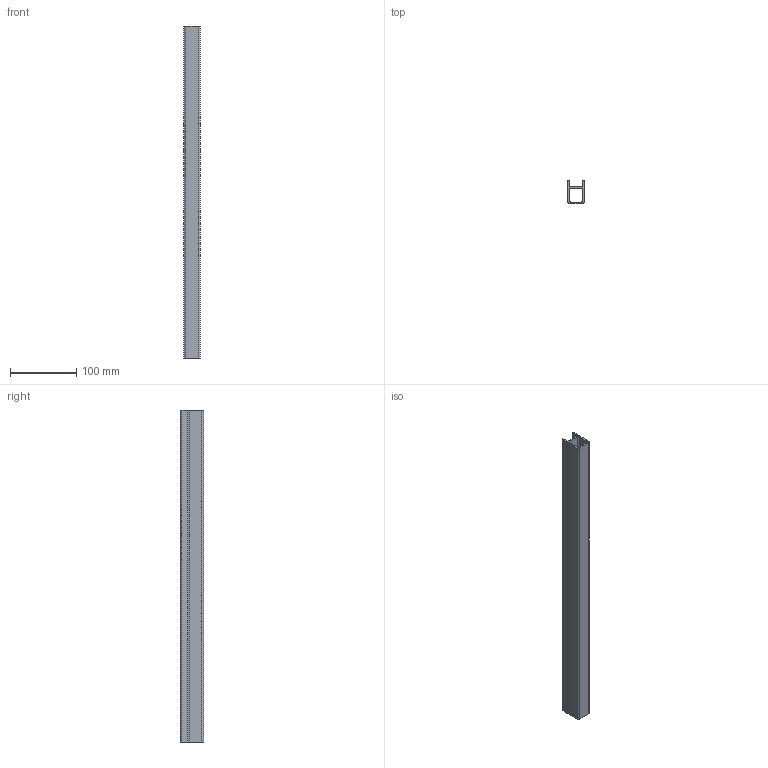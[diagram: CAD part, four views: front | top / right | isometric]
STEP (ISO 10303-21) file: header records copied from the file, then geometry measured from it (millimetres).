
FILE_DESCRIPTION (( 'STEP AP214' ), '1' );
FILE_NAME ('A40713.step', '2024-12-03T16:11:58', ( '' ), ( '' ), 'SwSTEP 2.0', 'SolidWorks 2023', '' );
FILE_SCHEMA (( 'AUTOMOTIVE_DESIGN' ));
Length unit declared in the file: millimetre
Products named in the file (1): A40713
Bounding box: 25 x 35 x 500 mm (x, y, z)
Volume: 110373.5 mm3; surface area: 108552.2 mm2
Topology: 1 solids, 1 shells, 28 faces, 78 edges, 52 vertices
Faces by surface type: plane 16, cylinder 12
Entity records: 933 total; most frequent: DIRECTION 160, CARTESIAN_POINT 159, ORIENTED_EDGE 156, EDGE_CURVE 78, VECTOR 54, LINE 54, AXIS2_PLACEMENT_3D 53, VERTEX_POINT 52
